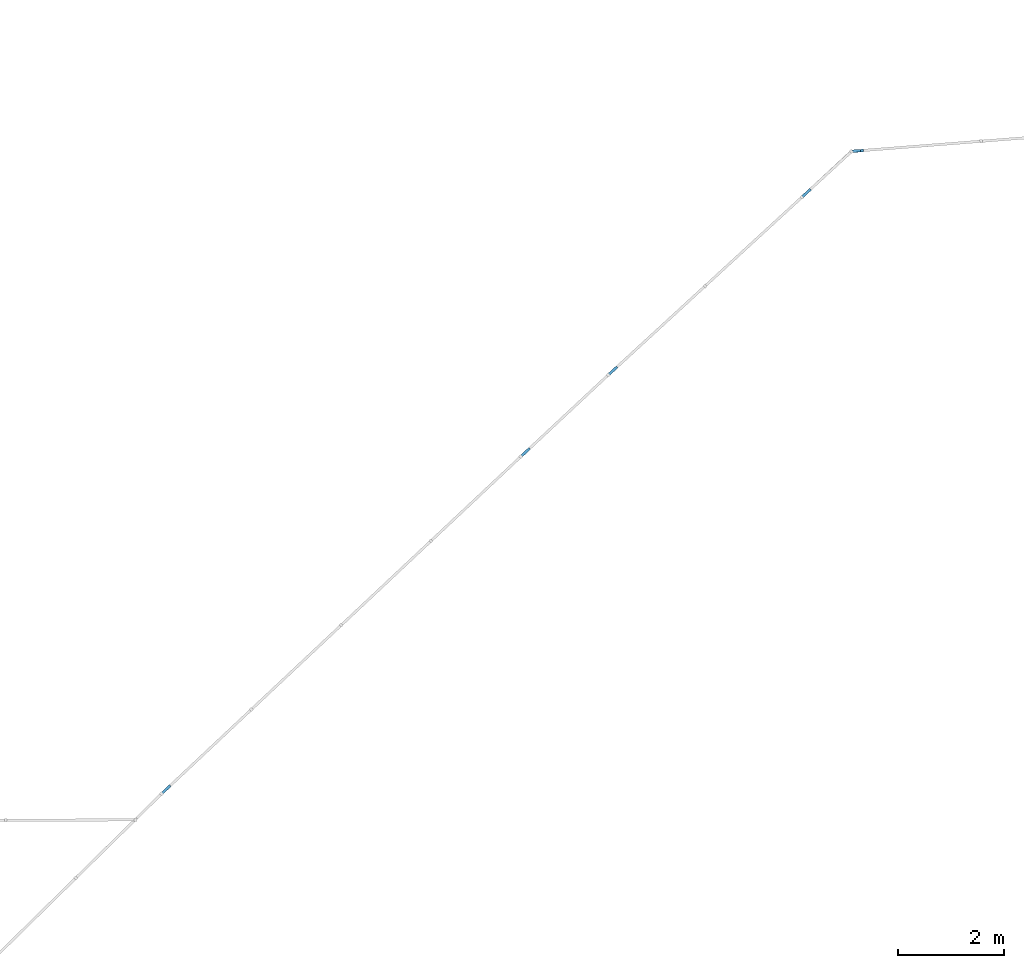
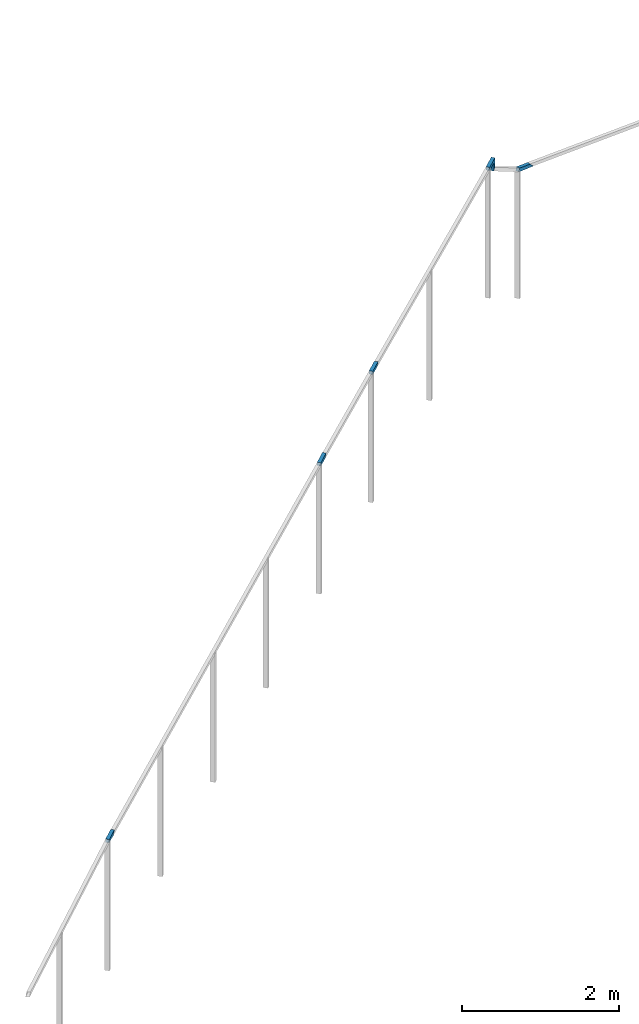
# One storey, part 80 of 91: 5 building element parts, 1 element without a shape of its own.
"""IFC2X3 building model written with IfcOpenShell, lengths in metres."""

from ifc_helpers import new_model, entity, si_unit, converted_unit, derived_unit, money_unit, direction, frame, origin_with_axes, place, context, subcontext, project, spatial, faceted_brep, material, type_object, element, aggregate, save


model = new_model("IFC2X3")

# Units and contexts
model_context = context("Model", 3, precision=1e-05, world=origin_with_axes(), true_north=direction((0.0, 1.0)))
body_context = subcontext(model_context, "Body", "Model", "MODEL_VIEW")
ifc_project = project(units=[si_unit("LENGTHUNIT", "METRE"), si_unit("AREAUNIT", "SQUARE_METRE"), si_unit("VOLUMEUNIT", "CUBIC_METRE"), converted_unit("PLANEANGLEUNIT", "DEGREE", entity("IfcPlaneAngleMeasure", 0.0174532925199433), si_unit("PLANEANGLEUNIT", "RADIAN"), dimensions=[0, 0, 0, 0, 0, 0, 0]), money_unit("EUR"), converted_unit("TIMEUNIT", "Year", entity("IfcTimeMeasure", 31557600.0), si_unit("TIMEUNIT", "SECOND"), dimensions=[0, 0, 1, 0, 0, 0, 0]), si_unit("MASSUNIT", "GRAM", prefix="KILO"), si_unit("THERMODYNAMICTEMPERATUREUNIT", "DEGREE_CELSIUS"), si_unit("LUMINOUSINTENSITYUNIT", "LUMEN"), si_unit("ENERGYUNIT", "JOULE", prefix="MEGA"), derived_unit("THERMALCONDUCTANCEUNIT", [(si_unit("POWERUNIT", "WATT"), 1), (si_unit("LENGTHUNIT", "METRE"), -1), (si_unit("THERMODYNAMICTEMPERATUREUNIT", "KELVIN"), -1)]), derived_unit("SPECIFICHEATCAPACITYUNIT", [(si_unit("ENERGYUNIT", "JOULE"), 1), (si_unit("MASSUNIT", "GRAM", prefix="KILO"), -1), (si_unit("THERMODYNAMICTEMPERATUREUNIT", "KELVIN"), -1)]), derived_unit("MASSDENSITYUNIT", [(si_unit("MASSUNIT", "GRAM", prefix="KILO"), 1), (si_unit("VOLUMEUNIT", "CUBIC_METRE"), -1)])], contexts=[model_context])

# Site, building, storey
site_placement = place(None, origin_with_axes())
site = spatial("IfcSite", under=ifc_project, at=site_placement, Name="Site", CompositionType="ELEMENT")
building_placement = place(site_placement, origin_with_axes())
building = spatial("IfcBuilding", under=site, at=building_placement, Name="Bâtiment", CompositionType="ELEMENT")
storey_placement = place(building_placement, origin_with_axes())
storey = spatial("IfcBuildingStorey", under=building, at=storey_placement, Name="RDC", CompositionType="ELEMENT", Elevation=0.0)

# Proxy, building element parts
building_element_proxy_type = type_object("IfcBuildingElementProxyType", Name="Type de garde-corps", PredefinedType="NOTDEFINED")
proxy_placement = place(storey_placement, frame((79.63337255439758, 3.614023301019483, -2.37161404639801), z_axis=(0.0, 0.0, 1.0), x_axis=(1.0, 0.0, 0.0)))
proxy = element("IfcBuildingElementProxy", 1, at=proxy_placement, inside=storey, type_object=building_element_proxy_type, Name="RAMPE-004")
ifc_material = material(Name="Acier Galva")
building_element_part_1_placement = place(proxy_placement, origin_with_axes())
building_element_part_1 = element("IfcBuildingElementPart", 2, at=building_element_part_1_placement, material=ifc_material, Name="Acier Galva", context=body_context, shape_type="Brep", body=[
    faceted_brep([(-14.14408749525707, -30.33419250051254, 4.733119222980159), (-14.14486533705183, -30.33493934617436, 4.683119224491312), (-14.01707750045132, -30.21500488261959, 4.683119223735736), (-14.17871917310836, -30.29812351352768, 4.733119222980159), (-14.17949701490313, -30.29887035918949, 4.683119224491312), (-14.05129352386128, -30.17854581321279, 4.683119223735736), (-14.01707750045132, -30.21500488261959, 4.675862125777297), (-13.98061843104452, -30.18078885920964, 4.72383223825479), (-13.98061843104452, -30.18078885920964, 4.733119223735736), (-14.01483445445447, -30.14432978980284, 4.733119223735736), (-14.01483445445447, -30.14432978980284, 4.72383223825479), (-14.05129352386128, -30.17854581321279, 4.675862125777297)], [[[0, 1, 2]], [[0, 3, 4, 1]], [[1, 4, 5, 2]], [[0, 2, 6, 7, 8]], [[3, 0, 8, 9]], [[4, 3, 9]], [[4, 9, 10, 11, 5]], [[2, 5, 11, 6]], [[7, 6, 11, 10]], [[9, 8, 7, 10]]]),
])
building_element_part_2_placement = place(proxy_placement, origin_with_axes())
building_element_part_2 = element("IfcBuildingElementPart", 3, at=building_element_part_2_placement, material=ifc_material, Name="Acier Galva", context=body_context, shape_type="Brep", body=[
    faceted_brep([(-7.350698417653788, -23.95875774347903, 4.346894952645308), (-7.351454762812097, -23.95946568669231, 4.296894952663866), (-7.223179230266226, -23.83971422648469, 4.296894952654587), (-7.384866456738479, -23.92225364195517, 4.346894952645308), (-7.385622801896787, -23.92296158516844, 4.296894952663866), (-7.257299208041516, -23.80316525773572, 4.296894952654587), (-7.223179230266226, -23.83971422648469, 4.289615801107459), (-7.186630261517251, -23.80559424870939, 4.337584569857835), (-7.186630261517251, -23.8055942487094, 4.346894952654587), (-7.220750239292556, -23.76904527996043, 4.346894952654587), (-7.220750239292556, -23.76904527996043, 4.337584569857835), (-7.257299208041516, -23.80316525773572, 4.289615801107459)], [[[0, 1, 2]], [[0, 3, 4, 1]], [[1, 4, 5, 2]], [[0, 2, 6, 7, 8]], [[3, 0, 8, 9]], [[4, 3, 9]], [[4, 9, 10, 11, 5]], [[2, 5, 11, 6]], [[7, 6, 11, 10]], [[9, 8, 7, 10]]]),
])
building_element_part_3_placement = place(proxy_placement, origin_with_axes())
building_element_part_3 = element("IfcBuildingElementPart", 4, at=building_element_part_3_placement, material=ifc_material, Name="Acier Galva", context=body_context, shape_type="Brep", body=[
    faceted_brep([(-5.697669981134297, -22.4155910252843, 4.253078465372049), (-5.698430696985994, -22.41629531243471, 4.203078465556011), (-5.569220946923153, -22.29765624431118, 4.20307846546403), (-5.731638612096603, -22.37890076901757, 4.253078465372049), (-5.732399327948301, -22.37960505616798, 4.203078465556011), (-5.603037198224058, -22.2608260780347, 4.20307846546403), (-5.569220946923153, -22.29765624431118, 4.197872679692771), (-5.532390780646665, -22.26383999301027, 4.246408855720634), (-5.532390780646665, -22.26383999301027, 4.25307846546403), (-5.566207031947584, -22.22700982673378, 4.25307846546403), (-5.566207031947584, -22.22700982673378, 4.246408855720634), (-5.603037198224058, -22.2608260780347, 4.197872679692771)], [[[0, 1, 2]], [[0, 3, 4, 1]], [[1, 4, 5, 2]], [[0, 2, 6, 7, 8]], [[3, 0, 8, 9]], [[4, 3, 9]], [[4, 9, 10, 11, 5]], [[2, 5, 11, 6]], [[7, 6, 11, 10]], [[9, 8, 7, 10]]]),
])
building_element_part_4_placement = place(proxy_placement, origin_with_axes())
building_element_part_4 = element("IfcBuildingElementPart", 5, at=building_element_part_4_placement, material=ifc_material, Name="Acier Galva", context=body_context, shape_type="Brep", body=[
    faceted_brep([(-2.038545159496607, -19.0559046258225, 4.105452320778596), (-2.039091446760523, -19.05640791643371, 4.055452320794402), (-1.910283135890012, -18.93733488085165, 4.055452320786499), (-2.072423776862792, -19.01913172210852, 4.105452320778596), (-2.072970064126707, -19.01963501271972, 4.055452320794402), (-1.944223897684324, -18.90061942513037, 4.055452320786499), (-1.910283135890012, -18.93733488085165, 3.932048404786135), (-1.873567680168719, -18.90339411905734, 3.958612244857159), (-1.873567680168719, -18.90339411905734, 4.105452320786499), (-1.907508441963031, -18.86667866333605, 4.105452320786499), (-1.907508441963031, -18.86667866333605, 3.958612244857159), (-1.944223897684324, -18.90061942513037, 3.932048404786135)], [[[0, 1, 2]], [[0, 3, 4, 1]], [[1, 4, 5, 2]], [[0, 2, 6, 7, 8]], [[3, 0, 8, 9]], [[4, 3, 9]], [[4, 9, 10, 11, 5]], [[2, 5, 11, 6]], [[7, 6, 11, 10]], [[9, 8, 7, 10]]]),
])
building_element_part_5_placement = place(proxy_placement, origin_with_axes())
building_element_part_5 = element("IfcBuildingElementPart", 6, at=building_element_part_5_placement, material=ifc_material, Name="Acier Galva", context=body_context, shape_type="Brep", body=[
    faceted_brep([(-1.100201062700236, -18.19164720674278, 3.242105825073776), (-1.115172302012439, -18.19761816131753, 3.19233561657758), (-0.8911228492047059, -18.17773353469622, 3.192220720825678), (-1.119599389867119, -18.14300892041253, 3.242105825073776), (-1.134570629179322, -18.14897987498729, 3.19233561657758), (-0.8950126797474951, -18.12788507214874, 3.192220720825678), (-0.9409713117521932, -18.18162336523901, 3.242220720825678), (-0.9448611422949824, -18.13177490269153, 3.242220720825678), (-0.8950126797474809, -18.12788507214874, 3.193391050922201), (-0.8911228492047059, -18.17773353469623, 3.193391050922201), (-0.9409713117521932, -18.18162336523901, 3.244203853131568), (-0.9448611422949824, -18.13177490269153, 3.244203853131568)], [[[0, 1, 2]], [[0, 3, 4, 1]], [[1, 5, 2]], [[0, 2, 6]], [[3, 0, 6]], [[4, 3, 7]], [[1, 4, 5]], [[2, 5, 8, 9]], [[6, 2, 9, 10]], [[3, 6, 7]], [[4, 7, 5]], [[5, 7, 11, 8]], [[10, 9, 8, 11]], [[7, 6, 10, 11]]]),
])
aggregate(proxy, [building_element_part_1, building_element_part_2, building_element_part_3, building_element_part_4, building_element_part_5])

save(model, "model.ifc")
